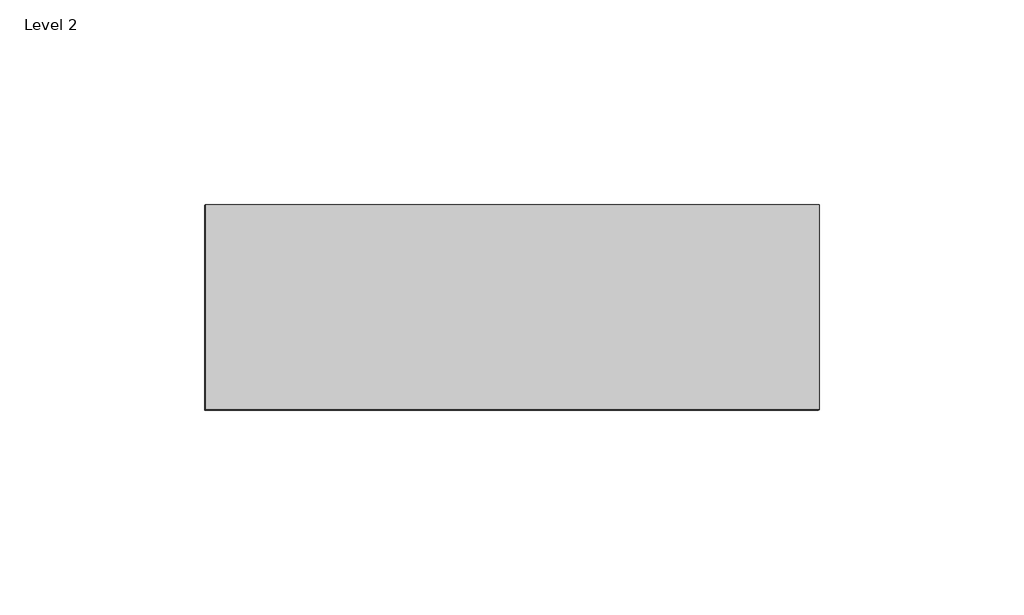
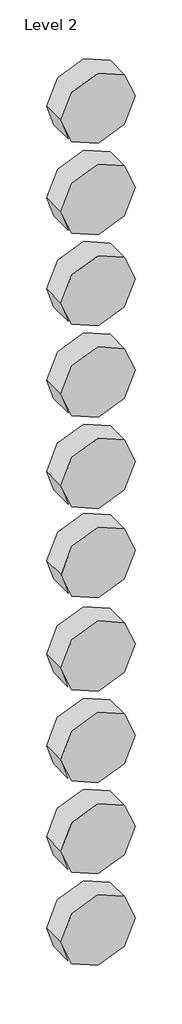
# One storey: 10 proxies.
"""IFC4 building model written with IfcOpenShell, lengths in millimetres."""

from ifc_helpers import new_model, si_unit, origin, place, context, project, spatial, transform, mapped, element, save
from components import materialmodel_materialmodel_17b3a4fc

model = new_model("IFC4")

# Units and contexts
model_context = context("Model", 3, world=origin())
ifc_project = project(units=[si_unit("LENGTHUNIT", "METRE", prefix="MILLI")], contexts=[model_context])

# Site, building, storey
site = spatial("IfcSite", under=ifc_project)
building = spatial("IfcBuilding", under=site)
storey = spatial("IfcBuildingStorey", under=building, Name="Level 2", Elevation=4000.0)

# Proxies
placement = place(None, origin())
materialmodel_materialmodel_shape = materialmodel_materialmodel_17b3a4fc(model_context)
element("IfcBuildingElementProxy", 1, Name="MaterialModel : MaterialModel", ObjectType="MaterialModel : MaterialModel", at=placement, inside=storey, context=model_context, shape_type="MappedRepresentation", body=[
    mapped(materialmodel_materialmodel_shape, transform((-5560.2216872, 2209.4764129, 1545.3539848), x_axis=(1.0, 0.0, 0.0), y_axis=(0.0, 1.0, 0.0), z_axis=(0.0, 0.0, 1.0))),
])
element("IfcBuildingElementProxy", 2, Name="MaterialModel : MaterialModel", ObjectType="MaterialModel : MaterialModel", at=placement, inside=storey, context=model_context, shape_type="MappedRepresentation", body=[
    mapped(materialmodel_materialmodel_shape, transform((-5560.2513951, 2209.4764129, 1350.3835777), x_axis=(1.0, 0.0, 0.0), y_axis=(0.0, 1.0, 0.0), z_axis=(0.0, 0.0, 1.0))),
])
element("IfcBuildingElementProxy", 3, Name="MaterialModel : MaterialModel", ObjectType="MaterialModel : MaterialModel", at=placement, inside=storey, context=model_context, shape_type="MappedRepresentation", body=[
    mapped(materialmodel_materialmodel_shape, transform((-5560.2811031, 2209.4764129, 1155.4131707), x_axis=(1.0, 0.0, 0.0), y_axis=(0.0, 1.0, 0.0), z_axis=(0.0, 0.0, 1.0))),
])
element("IfcBuildingElementProxy", 4, Name="MaterialModel : MaterialModel", ObjectType="MaterialModel : MaterialModel", at=placement, inside=storey, context=model_context, shape_type="MappedRepresentation", body=[
    mapped(materialmodel_materialmodel_shape, transform((-5560.3108111, 2209.4764129, 960.4427636), x_axis=(1.0, 0.0, 0.0), y_axis=(0.0, 1.0, 0.0), z_axis=(0.0, 0.0, 1.0))),
])
element("IfcBuildingElementProxy", 5, Name="MaterialModel : MaterialModel", ObjectType="MaterialModel : MaterialModel", at=placement, inside=storey, context=model_context, shape_type="MappedRepresentation", body=[
    mapped(materialmodel_materialmodel_shape, transform((-5560.3405191, 2209.4764129, 765.4723565), x_axis=(1.0, 0.0, 0.0), y_axis=(0.0, 1.0, 0.0), z_axis=(0.0, 0.0, 1.0))),
])
element("IfcBuildingElementProxy", 6, Name="MaterialModel : MaterialModel", ObjectType="MaterialModel : MaterialModel", at=placement, inside=storey, context=model_context, shape_type="MappedRepresentation", body=[
    mapped(materialmodel_materialmodel_shape, transform((-5560.1325632, 2209.4764129, 575.265206), x_axis=(1.0, 0.0, 0.0), y_axis=(0.0, 1.0, 0.0), z_axis=(0.0, 0.0, 1.0))),
])
element("IfcBuildingElementProxy", 7, Name="MaterialModel : MaterialModel", ObjectType="MaterialModel : MaterialModel", at=placement, inside=storey, context=model_context, shape_type="MappedRepresentation", body=[
    mapped(materialmodel_materialmodel_shape, transform((-5560.4296431, 2209.4764129, 375.5315423), x_axis=(1.0, 0.0, 0.0), y_axis=(0.0, 1.0, 0.0), z_axis=(0.0, 0.0, 1.0))),
])
element("IfcBuildingElementProxy", 8, Name="MaterialModel : MaterialModel", ObjectType="MaterialModel : MaterialModel", at=placement, inside=storey, context=model_context, shape_type="MappedRepresentation", body=[
    mapped(materialmodel_materialmodel_shape, transform((-5560.4888633, 2209.4764129, 180.5609611), x_axis=(1.0, 0.0, 0.0), y_axis=(0.0, 1.0, 0.0), z_axis=(0.0, 0.0, 1.0))),
])
element("IfcBuildingElementProxy", 9, Name="MaterialModel : MaterialModel", ObjectType="MaterialModel : MaterialModel", at=placement, inside=storey, context=model_context, shape_type="MappedRepresentation", body=[
    mapped(materialmodel_materialmodel_shape, transform((-5560.4890591, 2209.4764129, -14.4092718), x_axis=(1.0, 0.0, 0.0), y_axis=(0.0, 1.0, 0.0), z_axis=(0.0, 0.0, 1.0))),
])
element("IfcBuildingElementProxy", 10, Name="MaterialModel : MaterialModel", ObjectType="MaterialModel : MaterialModel", at=placement, inside=storey, context=model_context, shape_type="MappedRepresentation", body=[
    mapped(materialmodel_materialmodel_shape, transform((-5560.4869058, 2209.4764129, -209.3794908), x_axis=(1.0, 0.0, 0.0), y_axis=(0.0, 1.0, 0.0), z_axis=(0.0, 0.0, 1.0))),
])

save(model, "model.ifc")
